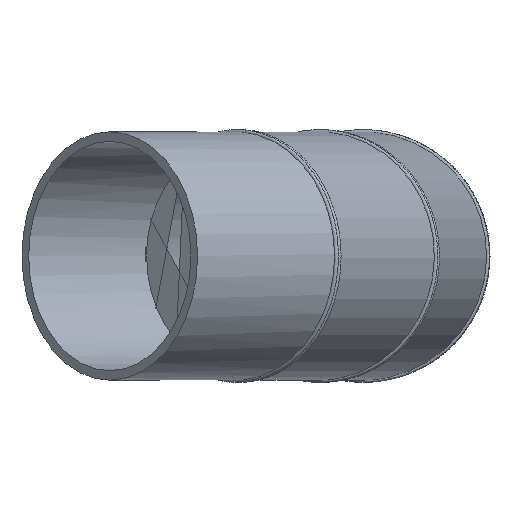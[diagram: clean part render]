
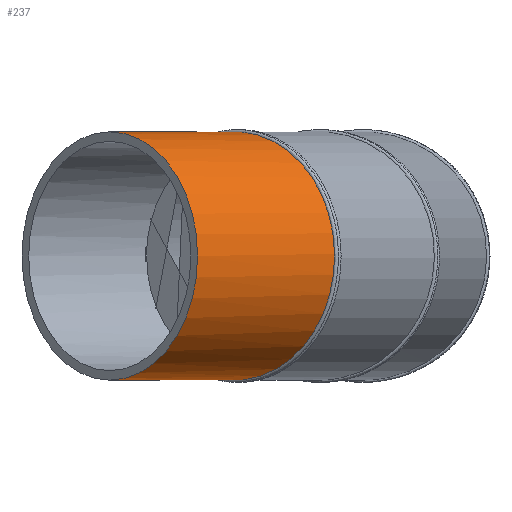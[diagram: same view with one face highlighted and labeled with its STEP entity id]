
A CAD part, front view. The second image highlights one B-rep face of the part: STEP entity #237.
In plain terms, the highlighted cylindrical face has radius 225 mm (diameter 450 mm), a full revolution.
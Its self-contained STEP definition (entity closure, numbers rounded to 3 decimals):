
#41=B_SPLINE_CURVE_WITH_KNOTS('',3,(#403,#404,#405,#406,#407,#408,#409,
#410,#411,#412,#413,#414,#415,#416,#417,#418,#419,#420,#421,#422,#423,#424,
#425,#426,#427,#428,#429,#430,#431,#432,#433,#434,#435,#436,#437,#438,#439,
#440,#441,#442,#443,#444,#445,#446,#447,#448,#449,#450,#451,#452,#453,#454,
#455,#456,#457,#458,#459,#460,#461,#462,#463,#464,#465,#466,#467,#468,#469,
#470,#471,#472,#473,#474,#475,#476,#477,#478,#479,#480,#481,#482,#483,#484,
#485,#486,#487,#488,#489,#490,#491,#492,#493),.UNSPECIFIED.,.T.,.F.,(1,
1,1,1,1,1,1,1,1,1,1,1,1,1,1,1,1,1,1,1,1,1,1,1,1,1,1,1,1,1,1,1,1,1,1,1,1,
1,1,1,1,1,1,1,1,1,1,1,1,1,1,1,1,1,1,1,1,1,1,1,1,1,1,1,1,1,1,1,1,1,1,1,1,
1,1,1,1,1,1,1,1,1,1,1,1,1,1,1,1,1,1,1,1,1,1),(-0.056,-0.045,
-0.022,0.,0.022,0.033,
0.045,0.067,0.078,0.089,
0.1,0.111,0.134,0.156,
0.178,0.201,0.212,0.223,
0.234,0.245,0.256,0.267,
0.29,0.312,0.323,0.334,
0.356,0.379,0.39,0.401,
0.423,0.446,0.468,0.479,
0.49,0.501,0.512,0.535,
0.557,0.579,0.59,0.602,
0.624,0.646,0.657,0.668,
0.691,0.713,0.724,0.735,
0.746,0.757,0.769,0.78,
0.802,0.824,0.847,0.869,
0.88,0.891,0.913,0.936,
0.958,0.969,0.98,0.991,
1.003,1.025,1.047,1.069,1.092,
1.103,1.114,1.125,1.136,1.147,
1.158,1.181,1.203,1.225,1.236,
1.248,1.259,1.27,1.292,1.314,
1.337,1.359,1.37,1.381,1.404,
1.426,1.448,1.459,1.47),
 .UNSPECIFIED.);
#50=CYLINDRICAL_SURFACE('',#287,225.);
#82=ORIENTED_EDGE('',*,*,#134,.T.);
#83=ORIENTED_EDGE('',*,*,#127,.F.);
#127=EDGE_CURVE('',#153,#153,#173,.T.);
#134=EDGE_CURVE('',#160,#160,#41,.T.);
#153=VERTEX_POINT('',#388);
#160=VERTEX_POINT('',#494);
#173=CIRCLE('',#279,225.);
#179=EDGE_LOOP('',(#82));
#180=EDGE_LOOP('',(#83));
#207=FACE_BOUND('',#179,.T.);
#208=FACE_BOUND('',#180,.T.);
#237=ADVANCED_FACE('',(#207,#208),#50,.T.);
#279=AXIS2_PLACEMENT_3D('',#387,#317,#318);
#287=AXIS2_PLACEMENT_3D('',#402,#333,#334);
#317=DIRECTION('',(0.,1.,0.));
#318=DIRECTION('',(-1.,0.,0.));
#333=DIRECTION('',(0.,1.,0.));
#334=DIRECTION('',(-1.,0.,0.));
#387=CARTESIAN_POINT('',(1136.49,180.,0.));
#388=CARTESIAN_POINT('',(911.49,180.,0.));
#402=CARTESIAN_POINT('',(1136.49,-179.244,0.));
#403=CARTESIAN_POINT('',(912.225,-112.062,-22.258));
#404=CARTESIAN_POINT('',(911.123,-111.917,-0.004));
#405=CARTESIAN_POINT('',(912.043,-112.038,18.56));
#406=CARTESIAN_POINT('',(913.869,-112.278,33.255));
#407=CARTESIAN_POINT('',(916.427,-112.614,47.892));
#408=CARTESIAN_POINT('',(920.05,-113.09,62.247));
#409=CARTESIAN_POINT('',(924.738,-113.706,76.336));
#410=CARTESIAN_POINT('',(928.76,-114.234,86.682));
#411=CARTESIAN_POINT('',(933.285,-114.829,96.819));
#412=CARTESIAN_POINT('',(939.995,-115.71,110.047));
#413=CARTESIAN_POINT('',(949.493,-116.958,125.766));
#414=CARTESIAN_POINT('',(962.629,-118.684,143.389));
#415=CARTESIAN_POINT('',(977.591,-120.65,159.812));
#416=CARTESIAN_POINT('',(991.268,-122.448,172.136));
#417=CARTESIAN_POINT('',(1002.946,-123.983,181.195));
#418=CARTESIAN_POINT('',(1011.998,-125.174,187.529));
#419=CARTESIAN_POINT('',(1021.335,-126.401,193.404));
#420=CARTESIAN_POINT('',(1030.974,-127.669,198.827));
#421=CARTESIAN_POINT('',(1040.862,-128.969,203.766));
#422=CARTESIAN_POINT('',(1054.308,-130.738,209.68));
#423=CARTESIAN_POINT('',(1071.697,-133.025,215.845));
#424=CARTESIAN_POINT('',(1089.505,-135.368,220.255));
#425=CARTESIAN_POINT('',(1104.035,-137.281,222.738));
#426=CARTESIAN_POINT('',(1118.577,-139.195,224.494));
#427=CARTESIAN_POINT('',(1136.737,-141.585,225.351));
#428=CARTESIAN_POINT('',(1154.889,-143.975,224.454));
#429=CARTESIAN_POINT('',(1169.395,-145.885,222.672));
#430=CARTESIAN_POINT('',(1183.919,-147.798,220.16));
#431=CARTESIAN_POINT('',(1201.718,-150.143,215.714));
#432=CARTESIAN_POINT('',(1222.567,-152.89,208.275));
#433=CARTESIAN_POINT('',(1239.178,-155.079,200.437));
#434=CARTESIAN_POINT('',(1252.032,-156.773,193.173));
#435=CARTESIAN_POINT('',(1261.362,-158.003,187.277));
#436=CARTESIAN_POINT('',(1270.392,-159.193,180.932));
#437=CARTESIAN_POINT('',(1282.049,-160.73,171.851));
#438=CARTESIAN_POINT('',(1295.708,-162.531,159.494));
#439=CARTESIAN_POINT('',(1310.639,-164.5,143.042));
#440=CARTESIAN_POINT('',(1321.628,-165.95,128.237));
#441=CARTESIAN_POINT('',(1329.564,-166.997,115.709));
#442=CARTESIAN_POINT('',(1336.817,-167.953,102.9));
#443=CARTESIAN_POINT('',(1344.642,-168.986,86.362));
#444=CARTESIAN_POINT('',(1350.828,-169.802,69.131));
#445=CARTESIAN_POINT('',(1354.778,-170.323,54.925));
#446=CARTESIAN_POINT('',(1358.046,-170.755,40.427));
#447=CARTESIAN_POINT('',(1360.766,-171.113,22.138));
#448=CARTESIAN_POINT('',(1361.676,-171.234,3.566));
#449=CARTESIAN_POINT('',(1361.302,-171.184,-11.225));
#450=CARTESIAN_POINT('',(1360.473,-171.075,-22.319));
#451=CARTESIAN_POINT('',(1359.095,-170.893,-33.369));
#452=CARTESIAN_POINT('',(1357.179,-170.64,-44.3));
#453=CARTESIAN_POINT('',(1354.726,-170.316,-55.131));
#454=CARTESIAN_POINT('',(1350.733,-169.789,-69.436));
#455=CARTESIAN_POINT('',(1344.462,-168.962,-86.82));
#456=CARTESIAN_POINT('',(1334.873,-167.697,-106.922));
#457=CARTESIAN_POINT('',(1323.531,-166.201,-125.699));
#458=CARTESIAN_POINT('',(1312.615,-164.761,-140.353));
#459=CARTESIAN_POINT('',(1303.007,-163.494,-151.453));
#460=CARTESIAN_POINT('',(1292.781,-162.145,-162.154));
#461=CARTESIAN_POINT('',(1279.115,-160.343,-174.489));
#462=CARTESIAN_POINT('',(1261.271,-157.991,-187.664));
#463=CARTESIAN_POINT('',(1245.481,-155.91,-197.081));
#464=CARTESIAN_POINT('',(1232.285,-154.171,-203.689));
#465=CARTESIAN_POINT('',(1222.198,-152.841,-208.134));
#466=CARTESIAN_POINT('',(1211.909,-151.486,-212.08));
#467=CARTESIAN_POINT('',(1197.899,-149.64,-216.677));
#468=CARTESIAN_POINT('',(1180.091,-147.294,-221.103));
#469=CARTESIAN_POINT('',(1158.192,-144.41,-224.311));
#470=CARTESIAN_POINT('',(1136.384,-141.539,-225.35));
#471=CARTESIAN_POINT('',(1118.24,-139.15,-224.465));
#472=CARTESIAN_POINT('',(1103.759,-137.244,-222.697));
#473=CARTESIAN_POINT('',(1092.89,-135.814,-220.827));
#474=CARTESIAN_POINT('',(1082.117,-134.396,-218.424));
#475=CARTESIAN_POINT('',(1071.501,-133.,-215.504));
#476=CARTESIAN_POINT('',(1061.025,-131.621,-212.063));
#477=CARTESIAN_POINT('',(1047.257,-129.81,-206.778));
#478=CARTESIAN_POINT('',(1030.64,-127.625,-198.955));
#479=CARTESIAN_POINT('',(1011.611,-125.123,-187.598));
#480=CARTESIAN_POINT('',(996.807,-123.176,-176.66));
#481=CARTESIAN_POINT('',(985.597,-121.703,-167.024));
#482=CARTESIAN_POINT('',(977.583,-120.649,-159.418));
#483=CARTESIAN_POINT('',(969.943,-119.645,-151.42));
#484=CARTESIAN_POINT('',(960.256,-118.372,-140.221));
#485=CARTESIAN_POINT('',(949.252,-116.926,-125.425));
#486=CARTESIAN_POINT('',(937.793,-115.421,-106.336));
#487=CARTESIAN_POINT('',(928.393,-114.186,-86.489));
#488=CARTESIAN_POINT('',(922.198,-113.372,-69.269));
#489=CARTESIAN_POINT('',(918.247,-112.853,-55.098));
#490=CARTESIAN_POINT('',(914.97,-112.422,-40.625));
#491=CARTESIAN_POINT('',(912.225,-112.062,-22.258));
#492=CARTESIAN_POINT('',(911.123,-111.917,-0.004));
#493=CARTESIAN_POINT('',(912.043,-112.038,18.56));
#494=CARTESIAN_POINT('',(911.49,-111.965,0.));
